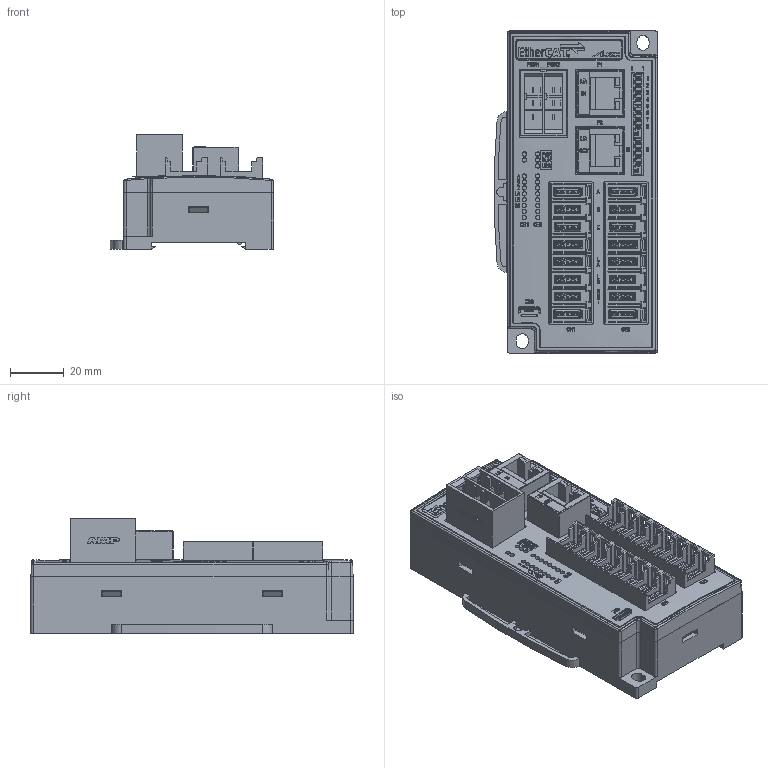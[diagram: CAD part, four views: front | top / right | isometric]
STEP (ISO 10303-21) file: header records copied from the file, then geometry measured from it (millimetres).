
FILE_DESCRIPTION((''),'2;1');
FILE_NAME('ECEC','2026-05-11T16:01:05',('gijyu181'),(''),'CREO PARAMETRIC BY PTC INC, 2018050','CREO PARAMETRIC BY PTC INC, 2018050','');
FILE_SCHEMA(('CONFIG_CONTROL_DESIGN','SHAPE_APPEARANCE_LAYERS_GROUPS'));
Products named in the file (1): ECEC
Bounding box: 60.87 x 120 x 42.6 mm (x, y, z)
Volume: 136888.8 mm3; surface area: 89999.5 mm2
Topology: 4 solids, 70 shells, 10811 faces, 30487 edges, 20305 vertices
Faces by surface type: plane 8807, extrusion 956, cylinder 914, bspline 69, cone 41, torus 20, sphere 4
Entity records: 430683 total; most frequent: CARTESIAN_POINT 89845, ORIENTED_EDGE 60974, DIRECTION 50549, EDGE_CURVE 30487, VECTOR 26661, LINE 25705, VERTEX_POINT 20305, EDGE_LOOP 11948
